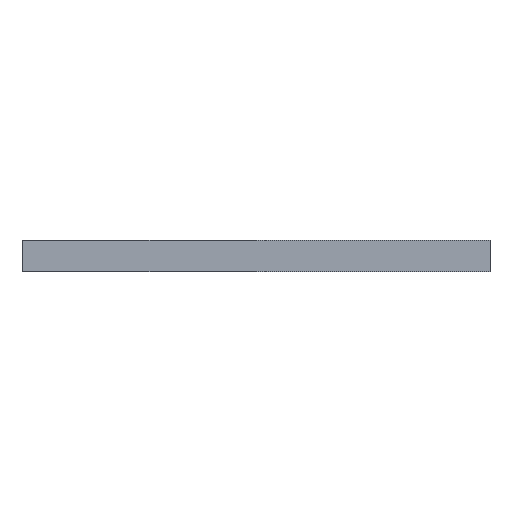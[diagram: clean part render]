
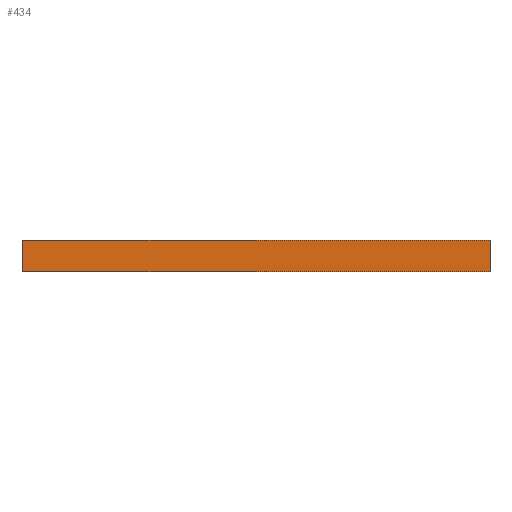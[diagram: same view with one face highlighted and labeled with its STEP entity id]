
A CAD part, front view. The second image highlights one B-rep face of the part: STEP entity #434.
In plain terms, the highlighted planar face has unit normal (0, -1, 0).
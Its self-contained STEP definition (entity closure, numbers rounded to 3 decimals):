
#50 = FACE_OUTER_BOUND ( 'NONE', #569, .T. ) ;
#177 = VERTEX_POINT ( 'NONE', #3370 ) ;
#198 = VERTEX_POINT ( 'NONE', #3431 ) ;
#216 = VERTEX_POINT ( 'NONE', #3427 ) ;
#239 = VERTEX_POINT ( 'NONE', #3429 ) ;
#318 = ORIENTED_EDGE ( 'NONE', *, *, #978, .T. ) ;
#338 = ORIENTED_EDGE ( 'NONE', *, *, #1171, .F. ) ;
#352 = ORIENTED_EDGE ( 'NONE', *, *, #988, .F. ) ;
#366 = ORIENTED_EDGE ( 'NONE', *, *, #991, .T. ) ;
#434 = ADVANCED_FACE ( 'NONE', ( #50 ), #2434, .F. ) ;
#569 = EDGE_LOOP ( 'NONE', ( #366, #352, #338, #318 ) ) ;
#611 = LINE ( 'NONE', #840, #634 ) ;
#634 = VECTOR ( 'NONE', #841, 1000. ) ;
#662 = VECTOR ( 'NONE', #1475, 1000. ) ;
#663 = LINE ( 'NONE', #1501, #682 ) ;
#666 = LINE ( 'NONE', #1507, #662 ) ;
#682 = VECTOR ( 'NONE', #1476, 1000. ) ;
#840 = CARTESIAN_POINT ( 'NONE',  ( -15., -15., 2. ) ) ;
#841 = DIRECTION ( 'NONE',  ( 1., 0., 0. ) ) ;
#978 = EDGE_CURVE ( 'NONE', #239, #177, #2157, .T. ) ;
#988 = EDGE_CURVE ( 'NONE', #198, #216, #666, .T. ) ;
#991 = EDGE_CURVE ( 'NONE', #177, #216, #663, .T. ) ;
#1155 = AXIS2_PLACEMENT_3D ( 'NONE', #2467, #2459, #2469 ) ;
#1171 = EDGE_CURVE ( 'NONE', #239, #198, #611, .T. ) ;
#1475 = DIRECTION ( 'NONE',  ( 0., 0., -1. ) ) ;
#1476 = DIRECTION ( 'NONE',  ( 1., 0., 0. ) ) ;
#1501 = CARTESIAN_POINT ( 'NONE',  ( -15., -15., 0. ) ) ;
#1507 = CARTESIAN_POINT ( 'NONE',  ( 15., -15., 2. ) ) ;
#1962 = CARTESIAN_POINT ( 'NONE',  ( -15., -15., 2. ) ) ;
#1970 = DIRECTION ( 'NONE',  ( 0., 0., -1. ) ) ;
#2157 = LINE ( 'NONE', #1962, #2180 ) ;
#2180 = VECTOR ( 'NONE', #1970, 1000. ) ;
#2434 = PLANE ( 'NONE',  #1155 ) ;
#2459 = DIRECTION ( 'NONE',  ( 0., 1., 0. ) ) ;
#2467 = CARTESIAN_POINT ( 'NONE',  ( -15., -15., 2. ) ) ;
#2469 = DIRECTION ( 'NONE',  ( 0., 0., 1. ) ) ;
#3370 = CARTESIAN_POINT ( 'NONE',  ( -15., -15., 0. ) ) ;
#3427 = CARTESIAN_POINT ( 'NONE',  ( 15., -15., 0. ) ) ;
#3429 = CARTESIAN_POINT ( 'NONE',  ( -15., -15., 2. ) ) ;
#3431 = CARTESIAN_POINT ( 'NONE',  ( 15., -15., 2. ) ) ;
